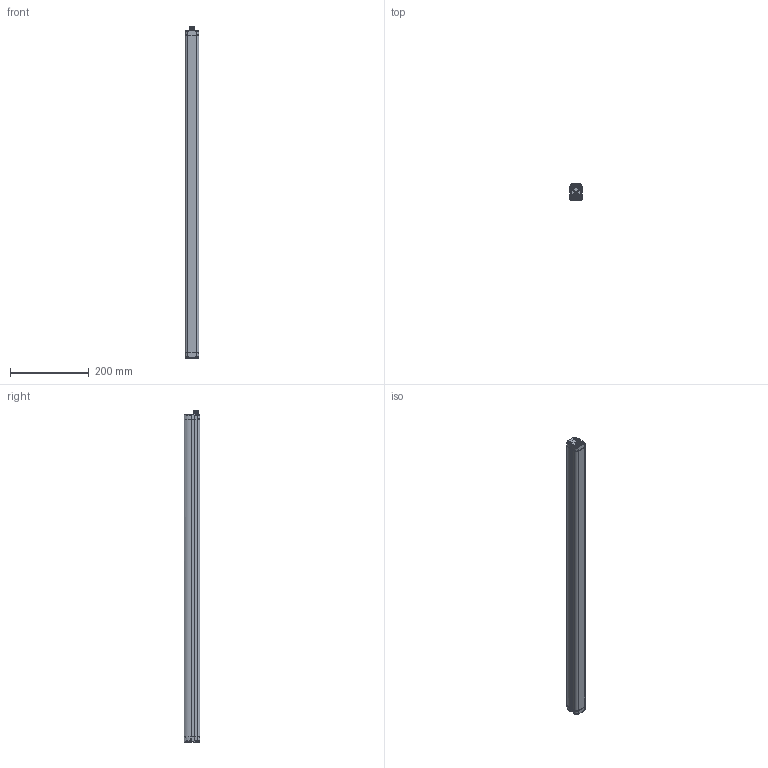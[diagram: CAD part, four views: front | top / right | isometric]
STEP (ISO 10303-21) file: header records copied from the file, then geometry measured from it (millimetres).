
FILE_DESCRIPTION(/* description */ (''),/* implementation_level */ '2;1');
FILE_NAME(/* name */ 'DSD-1021 DS2-05-07-075-JV _TX_STP.stp',/* time_stamp */ '2020-07-21T13:00:49+02:00',/* author */ (''),/* organization */ (''),/* preprocessor_version */ 'ST-DEVELOPER v16.7',/* originating_system */ 'SIEMENS PLM Software NX 12.0',/* authorisation */ '');
FILE_SCHEMA (('AUTOMOTIVE_DESIGN { 1 0 10303 214 3 1 1 1 }'));
Length unit declared in the file: millimetre
Products named in the file (1): fgut2F0CF26Ft4ki
Bounding box: 35 x 40.1 x 844 mm (x, y, z)
Volume: 1000971.4 mm3; surface area: 174727.3 mm2
Topology: 1 solids, 3 shells, 1269 faces, 3230 edges, 1951 vertices
Faces by surface type: plane 468, cylinder 445, bspline 168, cone 108, sphere 56, torus 24
Full cylindrical faces by diameter (mm): 1 x4, 2 x2, 2.4 x4, 2.6 x8, 3 x1, 3.7 x8, 3.8 x2, 4.2 x1, 5 x8, 6 x1, 6.8 x1, 8.3 x1, 10.4 x1, 10.55 x1, 12 x11, 14 x1, 14.5 x1
Entity records: 49453 total; most frequent: CARTESIAN_POINT 14104, ORIENTED_EDGE 6178, DIRECTION 5420, EDGE_CURVE 3089, AXIS2_PLACEMENT_3D 2111, VERTEX_POINT 1937, EDGE_LOOP 1378, ADVANCED_FACE 1261
